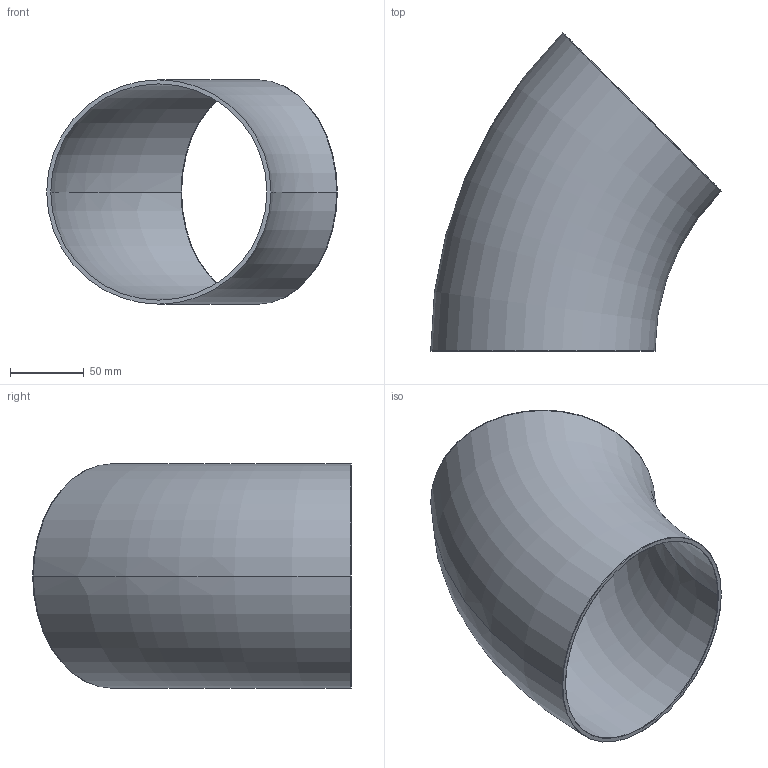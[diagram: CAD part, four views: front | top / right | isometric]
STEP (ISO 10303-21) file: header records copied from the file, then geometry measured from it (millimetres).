
FILE_DESCRIPTION (( 'STEP AP203' ), '1' );
FILE_NAME ('E2WK6.0.STEP', '2018-04-30T18:07:28', ( 'vneprd' ), ( 'Microsoft' ), 'SwSTEP 2.0', 'SolidWorks 2014', '' );
FILE_SCHEMA (( 'CONFIG_CONTROL_DESIGN' ));
Length unit declared in the file: inch
Products named in the file (1): E2WK6.0
Bounding box: 197.43 x 216.48 x 152.4 mm (x, y, z)
Volume: 235122.4 mm3; surface area: 172452.2 mm2
Topology: 1 solids, 1 shells, 14 faces, 32 edges, 20 vertices
Faces by surface type: cylinder 8, torus 4, plane 2
Entity records: 491 total; most frequent: DIRECTION 86, CARTESIAN_POINT 67, ORIENTED_EDGE 64, AXIS2_PLACEMENT_3D 39, EDGE_CURVE 32, CIRCLE 24, VERTEX_POINT 20, EDGE_LOOP 16
